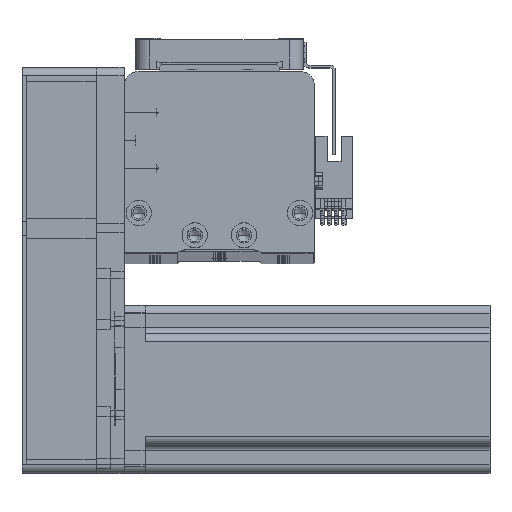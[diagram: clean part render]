
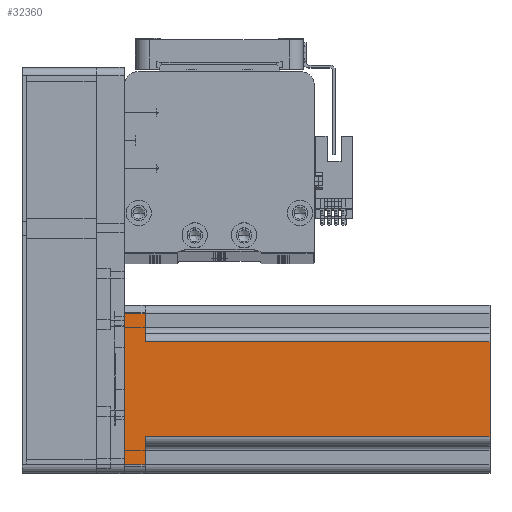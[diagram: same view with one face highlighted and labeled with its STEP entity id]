
A CAD part, top view. The second image highlights one B-rep face of the part: STEP entity #32360.
In plain terms, the highlighted planar face has unit normal (0, 0, 1) as drawn and (0, -1, 0) by its records, which use the part's own axes.
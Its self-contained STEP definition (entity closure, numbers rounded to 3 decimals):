
#29 = EDGE_CURVE ( 'NONE', #32947, #13392, #37590, .T. ) ;
#567 = ORIENTED_EDGE ( 'NONE', *, *, #41225, .T. ) ;
#593 = CARTESIAN_POINT ( 'NONE',  ( -17., -30., 130.7 ) ) ;
#1193 = VERTEX_POINT ( 'NONE', #45547 ) ;
#1466 = DIRECTION ( 'NONE',  ( 0., 1., 0. ) ) ;
#3114 = DIRECTION ( 'NONE',  ( 0., 0., 1. ) ) ;
#3515 = DIRECTION ( 'NONE',  ( 1., 0., 0. ) ) ;
#4119 = EDGE_CURVE ( 'NONE', #1193, #32947, #57098, .T. ) ;
#5011 = CARTESIAN_POINT ( 'NONE',  ( -20., -30., 7.5 ) ) ;
#5527 = EDGE_CURVE ( 'NONE', #48545, #17511, #14659, .T. ) ;
#5623 = EDGE_CURVE ( 'NONE', #12559, #17511, #18079, .T. ) ;
#6232 = CARTESIAN_POINT ( 'NONE',  ( -27., -30., 0. ) ) ;
#6655 = ORIENTED_EDGE ( 'NONE', *, *, #29, .T. ) ;
#9307 = EDGE_LOOP ( 'NONE', ( #55332, #50973, #26992, #32907, #6655, #25554, #567, #16173 ) ) ;
#9807 = CARTESIAN_POINT ( 'NONE',  ( 20., -30., 7.5 ) ) ;
#10896 = LINE ( 'NONE', #9807, #33016 ) ;
#12559 = VERTEX_POINT ( 'NONE', #14990 ) ;
#13392 = VERTEX_POINT ( 'NONE', #17427 ) ;
#14005 = CARTESIAN_POINT ( 'NONE',  ( 27., -30., 130.7 ) ) ;
#14035 = CARTESIAN_POINT ( 'NONE',  ( 17., -30., 7.5 ) ) ;
#14299 = DIRECTION ( 'NONE',  ( -1., 0., 0. ) ) ;
#14378 = LINE ( 'NONE', #5011, #48151 ) ;
#14659 = LINE ( 'NONE', #29551, #24996 ) ;
#14990 = CARTESIAN_POINT ( 'NONE',  ( -17., -30., 130.7 ) ) ;
#16173 = ORIENTED_EDGE ( 'NONE', *, *, #5527, .T. ) ;
#17427 = CARTESIAN_POINT ( 'NONE',  ( 27., -30., 0. ) ) ;
#17511 = VERTEX_POINT ( 'NONE', #52759 ) ;
#18079 = LINE ( 'NONE', #52040, #51829 ) ;
#18411 = DIRECTION ( 'NONE',  ( 0., 0., 1. ) ) ;
#19403 = EDGE_CURVE ( 'NONE', #1193, #51698, #14378, .T. ) ;
#20179 = DIRECTION ( 'NONE',  ( 0., 0., -1. ) ) ;
#22684 = EDGE_CURVE ( 'NONE', #13392, #44909, #53498, .T. ) ;
#23283 = PLANE ( 'NONE',  #37732 ) ;
#23357 = VECTOR ( 'NONE', #20179, 1000. ) ;
#24996 = VECTOR ( 'NONE', #3114, 1000. ) ;
#25554 = ORIENTED_EDGE ( 'NONE', *, *, #22684, .T. ) ;
#26992 = ORIENTED_EDGE ( 'NONE', *, *, #19403, .F. ) ;
#27232 = FACE_OUTER_BOUND ( 'NONE', #9307, .T. ) ;
#27879 = CARTESIAN_POINT ( 'NONE',  ( 30., -30., 130.7 ) ) ;
#29551 = CARTESIAN_POINT ( 'NONE',  ( 17., -30., 130.7 ) ) ;
#31436 = DIRECTION ( 'NONE',  ( 0., 0., -1. ) ) ;
#31501 = VECTOR ( 'NONE', #31436, 1000. ) ;
#32193 = CARTESIAN_POINT ( 'NONE',  ( 27., -30., 7.5 ) ) ;
#32355 = DIRECTION ( 'NONE',  ( -1., 0., 0. ) ) ;
#32360 = ADVANCED_FACE ( 'NONE', ( #27232 ), #23283, .F. ) ;
#32907 = ORIENTED_EDGE ( 'NONE', *, *, #4119, .T. ) ;
#32947 = VERTEX_POINT ( 'NONE', #6232 ) ;
#33016 = VECTOR ( 'NONE', #14299, 1000. ) ;
#35796 = DIRECTION ( 'NONE',  ( 1., 0., 0. ) ) ;
#36184 = VECTOR ( 'NONE', #49116, 1000. ) ;
#37590 = LINE ( 'NONE', #53539, #36184 ) ;
#37732 = AXIS2_PLACEMENT_3D ( 'NONE', #27879, #1466, #32355 ) ;
#41225 = EDGE_CURVE ( 'NONE', #44909, #48545, #10896, .T. ) ;
#41754 = VECTOR ( 'NONE', #18411, 1000. ) ;
#42942 = CARTESIAN_POINT ( 'NONE',  ( -17., -30., 7.5 ) ) ;
#44909 = VERTEX_POINT ( 'NONE', #32193 ) ;
#45547 = CARTESIAN_POINT ( 'NONE',  ( -27., -30., 7.5 ) ) ;
#48151 = VECTOR ( 'NONE', #35796, 1000. ) ;
#48545 = VERTEX_POINT ( 'NONE', #14035 ) ;
#49116 = DIRECTION ( 'NONE',  ( 1., 0., 0. ) ) ;
#50973 = ORIENTED_EDGE ( 'NONE', *, *, #55110, .T. ) ;
#51160 = CARTESIAN_POINT ( 'NONE',  ( -27., -30., 130.7 ) ) ;
#51698 = VERTEX_POINT ( 'NONE', #42942 ) ;
#51829 = VECTOR ( 'NONE', #3515, 1000. ) ;
#52040 = CARTESIAN_POINT ( 'NONE',  ( 30., -30., 130.7 ) ) ;
#52759 = CARTESIAN_POINT ( 'NONE',  ( 17., -30., 130.7 ) ) ;
#53498 = LINE ( 'NONE', #14005, #41754 ) ;
#53539 = CARTESIAN_POINT ( 'NONE',  ( 30., -30., 0. ) ) ;
#54949 = LINE ( 'NONE', #593, #31501 ) ;
#55110 = EDGE_CURVE ( 'NONE', #12559, #51698, #54949, .T. ) ;
#55332 = ORIENTED_EDGE ( 'NONE', *, *, #5623, .F. ) ;
#57098 = LINE ( 'NONE', #51160, #23357 ) ;
